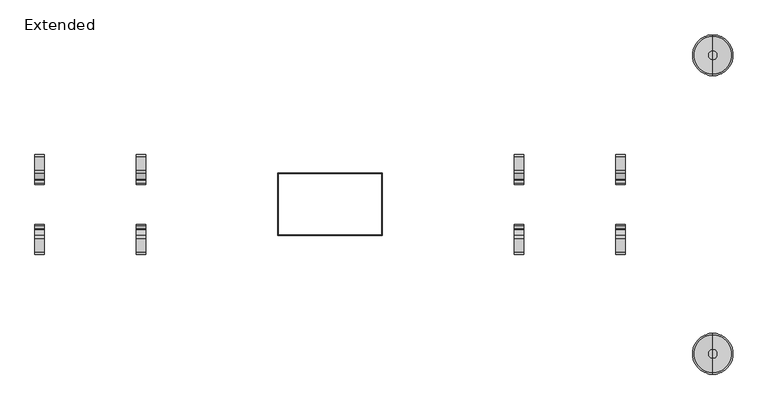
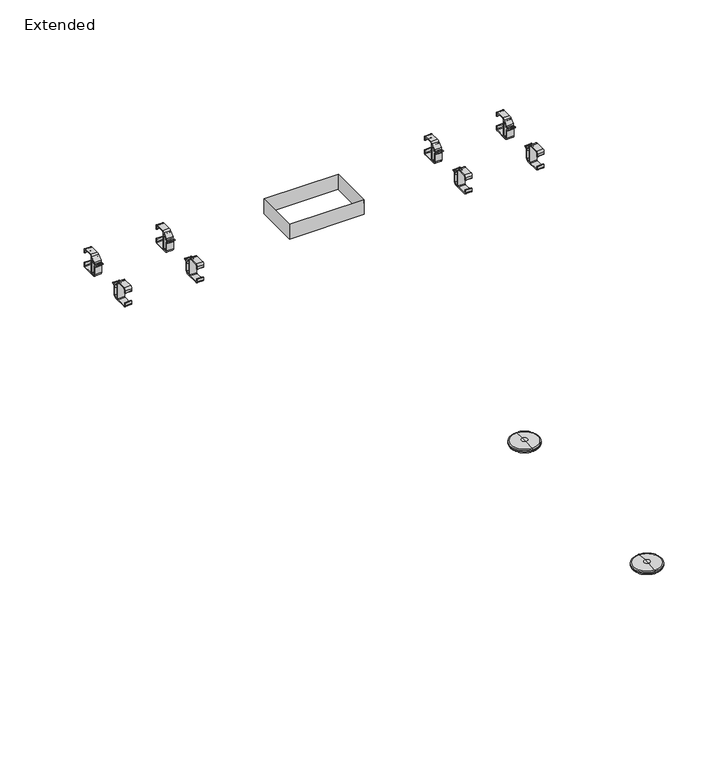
"""IFC4 building model written with IfcOpenShell, lengths in millimetres: furniture geometry, Steelcase Turnstone - Bivi - T Base : Extended."""

from ifc_helpers import new_model, si_unit, point, frame, frame_2d, origin, place, context, project, spatial, polyline, circle_curve, ellipse_curve, trimmed, segment, composite_curve, outline, extrude, faceted_brep, source, transform, mapped, element, save
from ifc_brep_helpers import plane_surface, cylinder_surface, revolved_surface, advanced_brep


def extended_abadf6af(model_context):
    return source(origin(), model_context, "Body", "SolidModel", [
        extrude(outline(composite_curve([segment(trimmed(circle_curve(frame_2d((-65.7391624, 919.9239361)), 6.2415612), [point((-59.4976013, 919.9239361))], [point((-64.5659326, 926.0542393))], True, "CARTESIAN"), True, "CONTINUOUS"), segment(trimmed(circle_curve(frame_2d((-64.3721846, 927.0666017)), 1.0307357), [point((-64.5659326, 926.0542393))], [point((-64.1869392, 928.0805545))], False, "CARTESIAN"), True, "CONTINUOUS"), segment(trimmed(circle_curve(frame_2d((-65.6771233, 919.9239361)), 8.2916266), [point((-64.1869392, 928.0805545))], [point((-57.3854967, 919.9239361))], False, "CARTESIAN"), True, "CONTINUOUS"), segment(polyline([(-57.3854967, 919.9239361), (-57.3854967, 903.1624107)]), True, "CONTINUOUS"), segment(trimmed(circle_curve(frame_2d((-53.4972048, 903.1624107)), 3.8882919), [point((-57.3854967, 903.1624107))], [point((-53.4414787, 899.2745182))], True, "CARTESIAN"), True, "CONTINUOUS"), segment(polyline([(-53.4414787, 899.2745182), (-48.5753711, 899.2745182)]), True, "CONTINUOUS"), segment(trimmed(circle_curve(frame_2d((-48.5753711, 900.358435)), 1.0839168), [point((-48.5753711, 899.2745182))], [point((-47.4914543, 900.358435))], True, "CARTESIAN"), True, "CONTINUOUS"), segment(polyline([(-47.4914543, 900.358435), (-47.4914543, 934.0135585)]), True, "CONTINUOUS"), segment(trimmed(circle_curve(frame_2d((-49.0315964, 934.0135585)), 1.5401421), [point((-47.4914543, 934.0135585))], [point((-50.0681586, 935.1526706))], True, "CARTESIAN"), True, "CONTINUOUS"), segment(polyline([(-50.0681586, 935.1526706), (-54.4475369, 931.1675508)]), True, "CONTINUOUS"), segment(trimmed(circle_curve(frame_2d((-53.8610141, 930.5230017)), 0.8714657), [point((-54.4475369, 931.1675508))], [point((-54.6447876, 930.142014))], True, "CARTESIAN"), True, "CONTINUOUS"), segment(trimmed(circle_curve(frame_2d((-56.5369304, 929.2222544)), 2.1038446), [point((-54.6447876, 930.142014))], [point((-57.8009025, 930.9040798))], False, "CARTESIAN"), True, "CONTINUOUS"), segment(polyline([(-57.8009025, 930.9040798), (-48.4315057, 939.3182067)]), True, "CONTINUOUS"), segment(trimmed(circle_curve(frame_2d((-43.0316889, 933.3053397)), 8.0816206), [point((-48.4315057, 939.3182067))], [point((-43.0316889, 941.3869603))], False, "CARTESIAN"), True, "CONTINUOUS"), segment(polyline([(-43.0316889, 941.3869603), (-21.684555, 941.3869603)]), True, "CONTINUOUS"), segment(trimmed(circle_curve(frame_2d((-22.1935929, 936.6624493)), 4.7518548), [point((-21.684555, 941.3869603))], [point((-17.4417381, 936.6624493))], False, "CARTESIAN"), True, "CONTINUOUS"), segment(polyline([(-17.4417381, 936.6624493), (-17.4417381, 931.3063472)]), True, "CONTINUOUS"), segment(trimmed(circle_curve(frame_2d((-18.5067894, 931.3063472)), 1.0650513), [point((-17.4417381, 931.3063472))], [point((-19.5718406, 931.3063472))], False, "CARTESIAN"), True, "CONTINUOUS"), segment(polyline([(-19.5718406, 931.3063472), (-19.5718406, 937.1038862)]), True, "CONTINUOUS"), segment(trimmed(circle_curve(frame_2d((-22.6679544, 937.1038862)), 3.0961138), [point((-19.5718406, 937.1038862))], [point((-22.6679544, 940.2))], True, "CARTESIAN"), True, "CONTINUOUS"), segment(polyline([(-22.6679544, 940.2), (-43.0035831, 940.2)]), True, "CONTINUOUS"), segment(trimmed(circle_curve(frame_2d((-43.0035831, 937.697389)), 2.502611), [point((-43.0035831, 940.2))], [point((-45.5061941, 937.697389))], True, "CARTESIAN"), True, "CONTINUOUS"), segment(polyline([(-45.5061941, 937.697389), (-45.5061941, 900.7613964)]), True, "CONTINUOUS"), segment(trimmed(circle_curve(frame_2d((-44.0445082, 900.7613964)), 1.4616859), [point((-45.5061941, 900.7613964))], [point((-44.0445082, 899.2997105))], True, "CARTESIAN"), True, "CONTINUOUS"), segment(polyline([(-44.0445082, 899.2997105), (-21.0231187, 899.2997105)]), True, "CONTINUOUS"), segment(trimmed(circle_curve(frame_2d((-21.0231187, 900.7509885)), 1.451278), [point((-21.0231187, 899.2997105))], [point((-19.5718406, 900.7509885))], True, "CARTESIAN"), True, "CONTINUOUS"), segment(polyline([(-19.5718406, 900.7509885), (-19.5718406, 907.0789837), (-17.4417381, 907.0789837), (-17.4417381, 901.1602118)]), True, "CONTINUOUS"), segment(trimmed(circle_curve(frame_2d((-21.439512, 901.1602118)), 3.997774), [point((-17.4417381, 901.1602118))], [point((-21.439512, 897.1624378))], False, "CARTESIAN"), True, "CONTINUOUS"), segment(polyline([(-21.439512, 897.1624378), (-53.4414787, 897.1624378)]), True, "CONTINUOUS"), segment(trimmed(circle_curve(frame_2d((-53.4414787, 903.2188231)), 6.0563853), [point((-53.4414787, 897.1624378))], [point((-59.4976013, 903.1624107))], False, "CARTESIAN"), True, "CONTINUOUS"), segment(polyline([(-59.4976013, 903.1624107), (-59.4976013, 919.9239361)]), True, "CONTINUOUS")], self_intersect=False)), frame((-644.2435707, 0.0, 0.0), z_axis=(1.0, 0.0, 0.0), x_axis=(0.0, 1.0, 0.0)), (0.0, 0.0, 1.0), 15.24),
        extrude(outline(composite_curve([segment(polyline([(-135.6005693, 919.9239361), (-135.6005693, 903.1624107)]), True, "CONTINUOUS"), segment(trimmed(circle_curve(frame_2d((-141.6566919, 903.2188231)), 6.0563853), [point((-135.6005693, 903.1624107))], [point((-141.6566919, 897.1624378))], False, "CARTESIAN"), True, "CONTINUOUS"), segment(polyline([(-141.6566919, 897.1624378), (-173.6586586, 897.1624378)]), True, "CONTINUOUS"), segment(trimmed(circle_curve(frame_2d((-173.6586586, 901.1602118)), 3.997774), [point((-173.6586586, 897.1624378))], [point((-177.6564325, 901.1602118))], False, "CARTESIAN"), True, "CONTINUOUS"), segment(polyline([(-177.6564325, 901.1602118), (-177.6564325, 907.0789837), (-175.52633, 907.0789837), (-175.52633, 900.7509885)]), True, "CONTINUOUS"), segment(trimmed(circle_curve(frame_2d((-174.0750519, 900.7509885)), 1.451278), [point((-175.52633, 900.7509885))], [point((-174.0750519, 899.2997105))], True, "CARTESIAN"), True, "CONTINUOUS"), segment(polyline([(-174.0750519, 899.2997105), (-151.0536624, 899.2997105)]), True, "CONTINUOUS"), segment(trimmed(circle_curve(frame_2d((-151.0536624, 900.7613964)), 1.4616859), [point((-151.0536624, 899.2997105))], [point((-149.5919765, 900.7613964))], True, "CARTESIAN"), True, "CONTINUOUS"), segment(polyline([(-149.5919765, 900.7613964), (-149.5919765, 937.697389)]), True, "CONTINUOUS"), segment(trimmed(circle_curve(frame_2d((-152.0945875, 937.697389)), 2.502611), [point((-149.5919765, 937.697389))], [point((-152.0945875, 940.2))], True, "CARTESIAN"), True, "CONTINUOUS"), segment(polyline([(-152.0945875, 940.2), (-172.4302162, 940.2)]), True, "CONTINUOUS"), segment(trimmed(circle_curve(frame_2d((-172.4302162, 937.1038862)), 3.0961138), [point((-172.4302162, 940.2))], [point((-175.52633, 937.1038862))], True, "CARTESIAN"), True, "CONTINUOUS"), segment(polyline([(-175.52633, 937.1038862), (-175.52633, 931.3063472)]), True, "CONTINUOUS"), segment(trimmed(circle_curve(frame_2d((-176.5913812, 931.3063472)), 1.0650513), [point((-175.52633, 931.3063472))], [point((-177.6564325, 931.3063472))], False, "CARTESIAN"), True, "CONTINUOUS"), segment(polyline([(-177.6564325, 931.3063472), (-177.6564325, 936.6624493)]), True, "CONTINUOUS"), segment(trimmed(circle_curve(frame_2d((-172.9045777, 936.6624493)), 4.7518548), [point((-177.6564325, 936.6624493))], [point((-173.4136156, 941.3869603))], False, "CARTESIAN"), True, "CONTINUOUS"), segment(polyline([(-173.4136156, 941.3869603), (-152.0664817, 941.3869603)]), True, "CONTINUOUS"), segment(trimmed(circle_curve(frame_2d((-152.0664817, 933.3053397)), 8.0816206), [point((-152.0664817, 941.3869603))], [point((-146.6666649, 939.3182067))], False, "CARTESIAN"), True, "CONTINUOUS"), segment(polyline([(-146.6666649, 939.3182067), (-137.2972681, 930.9040798)]), True, "CONTINUOUS"), segment(trimmed(circle_curve(frame_2d((-138.5612402, 929.2222544)), 2.1038446), [point((-137.2972681, 930.9040798))], [point((-140.453383, 930.142014))], False, "CARTESIAN"), True, "CONTINUOUS"), segment(trimmed(circle_curve(frame_2d((-141.2371565, 930.5230017)), 0.8714657), [point((-140.453383, 930.142014))], [point((-140.6506337, 931.1675508))], True, "CARTESIAN"), True, "CONTINUOUS"), segment(polyline([(-140.6506337, 931.1675508), (-145.030012, 935.1526706)]), True, "CONTINUOUS"), segment(trimmed(circle_curve(frame_2d((-146.0665742, 934.0135585)), 1.5401421), [point((-145.030012, 935.1526706))], [point((-147.6067163, 934.0135585))], True, "CARTESIAN"), True, "CONTINUOUS"), segment(polyline([(-147.6067163, 934.0135585), (-147.6067163, 900.358435)]), True, "CONTINUOUS"), segment(trimmed(circle_curve(frame_2d((-146.5227995, 900.358435)), 1.0839168), [point((-147.6067163, 900.358435))], [point((-146.5227995, 899.2745182))], True, "CARTESIAN"), True, "CONTINUOUS"), segment(polyline([(-146.5227995, 899.2745182), (-141.6566919, 899.2745182)]), True, "CONTINUOUS"), segment(trimmed(circle_curve(frame_2d((-141.6009658, 903.1624107)), 3.8882919), [point((-141.6566919, 899.2745182))], [point((-137.7126739, 903.1624107))], True, "CARTESIAN"), True, "CONTINUOUS"), segment(polyline([(-137.7126739, 903.1624107), (-137.7126739, 919.9239361)]), True, "CONTINUOUS"), segment(trimmed(circle_curve(frame_2d((-129.4210473, 919.9239361)), 8.2916266), [point((-137.7126739, 919.9239361))], [point((-130.9112314, 928.0805545))], False, "CARTESIAN"), True, "CONTINUOUS"), segment(trimmed(circle_curve(frame_2d((-130.725986, 927.0666017)), 1.0307357), [point((-130.9112314, 928.0805545))], [point((-130.532238, 926.0542393))], False, "CARTESIAN"), True, "CONTINUOUS"), segment(trimmed(circle_curve(frame_2d((-129.3590082, 919.9239361)), 6.2415612), [point((-130.532238, 926.0542393))], [point((-135.6005693, 919.9239361))], True, "CARTESIAN"), True, "CONTINUOUS")], self_intersect=False)), frame((-644.2435707, 0.0, 0.0), z_axis=(1.0, 0.0, 0.0), x_axis=(0.0, 1.0, 0.0)), (0.0, 0.0, 1.0), 15.24),
        extrude(outline(composite_curve([segment(trimmed(circle_curve(frame_2d((-65.7391624, 919.9239361)), 6.2415612), [point((-59.4976013, 919.9239361))], [point((-64.5659326, 926.0542393))], True, "CARTESIAN"), True, "CONTINUOUS"), segment(trimmed(circle_curve(frame_2d((-64.3721846, 927.0666017)), 1.0307357), [point((-64.5659326, 926.0542393))], [point((-64.1869392, 928.0805545))], False, "CARTESIAN"), True, "CONTINUOUS"), segment(trimmed(circle_curve(frame_2d((-65.6771233, 919.9239361)), 8.2916266), [point((-64.1869392, 928.0805545))], [point((-57.3854967, 919.9239361))], False, "CARTESIAN"), True, "CONTINUOUS"), segment(polyline([(-57.3854967, 919.9239361), (-57.3854967, 903.1624107)]), True, "CONTINUOUS"), segment(trimmed(circle_curve(frame_2d((-53.4972048, 903.1624107)), 3.8882919), [point((-57.3854967, 903.1624107))], [point((-53.4414787, 899.2745182))], True, "CARTESIAN"), True, "CONTINUOUS"), segment(polyline([(-53.4414787, 899.2745182), (-48.5753711, 899.2745182)]), True, "CONTINUOUS"), segment(trimmed(circle_curve(frame_2d((-48.5753711, 900.358435)), 1.0839168), [point((-48.5753711, 899.2745182))], [point((-47.4914543, 900.358435))], True, "CARTESIAN"), True, "CONTINUOUS"), segment(polyline([(-47.4914543, 900.358435), (-47.4914543, 934.0135585)]), True, "CONTINUOUS"), segment(trimmed(circle_curve(frame_2d((-49.0315964, 934.0135585)), 1.5401421), [point((-47.4914543, 934.0135585))], [point((-50.0681586, 935.1526706))], True, "CARTESIAN"), True, "CONTINUOUS"), segment(polyline([(-50.0681586, 935.1526706), (-54.4475369, 931.1675508)]), True, "CONTINUOUS"), segment(trimmed(circle_curve(frame_2d((-53.8610141, 930.5230017)), 0.8714657), [point((-54.4475369, 931.1675508))], [point((-54.6447876, 930.142014))], True, "CARTESIAN"), True, "CONTINUOUS"), segment(trimmed(circle_curve(frame_2d((-56.5369304, 929.2222544)), 2.1038446), [point((-54.6447876, 930.142014))], [point((-57.8009025, 930.9040798))], False, "CARTESIAN"), True, "CONTINUOUS"), segment(polyline([(-57.8009025, 930.9040798), (-48.4315057, 939.3182067)]), True, "CONTINUOUS"), segment(trimmed(circle_curve(frame_2d((-43.0316889, 933.3053397)), 8.0816206), [point((-48.4315057, 939.3182067))], [point((-43.0316889, 941.3869603))], False, "CARTESIAN"), True, "CONTINUOUS"), segment(polyline([(-43.0316889, 941.3869603), (-21.684555, 941.3869603)]), True, "CONTINUOUS"), segment(trimmed(circle_curve(frame_2d((-22.1935929, 936.6624493)), 4.7518548), [point((-21.684555, 941.3869603))], [point((-17.4417381, 936.6624493))], False, "CARTESIAN"), True, "CONTINUOUS"), segment(polyline([(-17.4417381, 936.6624493), (-17.4417381, 931.3063472)]), True, "CONTINUOUS"), segment(trimmed(circle_curve(frame_2d((-18.5067894, 931.3063472)), 1.0650513), [point((-17.4417381, 931.3063472))], [point((-19.5718406, 931.3063472))], False, "CARTESIAN"), True, "CONTINUOUS"), segment(polyline([(-19.5718406, 931.3063472), (-19.5718406, 937.1038862)]), True, "CONTINUOUS"), segment(trimmed(circle_curve(frame_2d((-22.6679544, 937.1038862)), 3.0961138), [point((-19.5718406, 937.1038862))], [point((-22.6679544, 940.2))], True, "CARTESIAN"), True, "CONTINUOUS"), segment(polyline([(-22.6679544, 940.2), (-43.0035831, 940.2)]), True, "CONTINUOUS"), segment(trimmed(circle_curve(frame_2d((-43.0035831, 937.697389)), 2.502611), [point((-43.0035831, 940.2))], [point((-45.5061941, 937.697389))], True, "CARTESIAN"), True, "CONTINUOUS"), segment(polyline([(-45.5061941, 937.697389), (-45.5061941, 900.7613964)]), True, "CONTINUOUS"), segment(trimmed(circle_curve(frame_2d((-44.0445082, 900.7613964)), 1.4616859), [point((-45.5061941, 900.7613964))], [point((-44.0445082, 899.2997105))], True, "CARTESIAN"), True, "CONTINUOUS"), segment(polyline([(-44.0445082, 899.2997105), (-21.0231187, 899.2997105)]), True, "CONTINUOUS"), segment(trimmed(circle_curve(frame_2d((-21.0231187, 900.7509885)), 1.451278), [point((-21.0231187, 899.2997105))], [point((-19.5718406, 900.7509885))], True, "CARTESIAN"), True, "CONTINUOUS"), segment(polyline([(-19.5718406, 900.7509885), (-19.5718406, 907.0789837), (-17.4417381, 907.0789837), (-17.4417381, 901.1602118)]), True, "CONTINUOUS"), segment(trimmed(circle_curve(frame_2d((-21.439512, 901.1602118)), 3.997774), [point((-17.4417381, 901.1602118))], [point((-21.439512, 897.1624378))], False, "CARTESIAN"), True, "CONTINUOUS"), segment(polyline([(-21.439512, 897.1624378), (-53.4414787, 897.1624378)]), True, "CONTINUOUS"), segment(trimmed(circle_curve(frame_2d((-53.4414787, 903.2188231)), 6.0563853), [point((-53.4414787, 897.1624378))], [point((-59.4976013, 903.1624107))], False, "CARTESIAN"), True, "CONTINUOUS"), segment(polyline([(-59.4976013, 903.1624107), (-59.4976013, 919.9239361)]), True, "CONTINUOUS")], self_intersect=False)), frame((-481.9950023, 0.0, 0.0), z_axis=(1.0, 0.0, 0.0), x_axis=(0.0, 1.0, 0.0)), (0.0, 0.0, 1.0), 15.24),
        extrude(outline(composite_curve([segment(polyline([(-135.6005693, 919.9239361), (-135.6005693, 903.1624107)]), True, "CONTINUOUS"), segment(trimmed(circle_curve(frame_2d((-141.6566919, 903.2188231)), 6.0563853), [point((-135.6005693, 903.1624107))], [point((-141.6566919, 897.1624378))], False, "CARTESIAN"), True, "CONTINUOUS"), segment(polyline([(-141.6566919, 897.1624378), (-173.6586586, 897.1624378)]), True, "CONTINUOUS"), segment(trimmed(circle_curve(frame_2d((-173.6586586, 901.1602118)), 3.997774), [point((-173.6586586, 897.1624378))], [point((-177.6564325, 901.1602118))], False, "CARTESIAN"), True, "CONTINUOUS"), segment(polyline([(-177.6564325, 901.1602118), (-177.6564325, 907.0789837), (-175.52633, 907.0789837), (-175.52633, 900.7509885)]), True, "CONTINUOUS"), segment(trimmed(circle_curve(frame_2d((-174.0750519, 900.7509885)), 1.451278), [point((-175.52633, 900.7509885))], [point((-174.0750519, 899.2997105))], True, "CARTESIAN"), True, "CONTINUOUS"), segment(polyline([(-174.0750519, 899.2997105), (-151.0536624, 899.2997105)]), True, "CONTINUOUS"), segment(trimmed(circle_curve(frame_2d((-151.0536624, 900.7613964)), 1.4616859), [point((-151.0536624, 899.2997105))], [point((-149.5919765, 900.7613964))], True, "CARTESIAN"), True, "CONTINUOUS"), segment(polyline([(-149.5919765, 900.7613964), (-149.5919765, 937.697389)]), True, "CONTINUOUS"), segment(trimmed(circle_curve(frame_2d((-152.0945875, 937.697389)), 2.502611), [point((-149.5919765, 937.697389))], [point((-152.0945875, 940.2))], True, "CARTESIAN"), True, "CONTINUOUS"), segment(polyline([(-152.0945875, 940.2), (-172.4302162, 940.2)]), True, "CONTINUOUS"), segment(trimmed(circle_curve(frame_2d((-172.4302162, 937.1038862)), 3.0961138), [point((-172.4302162, 940.2))], [point((-175.52633, 937.1038862))], True, "CARTESIAN"), True, "CONTINUOUS"), segment(polyline([(-175.52633, 937.1038862), (-175.52633, 931.3063472)]), True, "CONTINUOUS"), segment(trimmed(circle_curve(frame_2d((-176.5913812, 931.3063472)), 1.0650513), [point((-175.52633, 931.3063472))], [point((-177.6564325, 931.3063472))], False, "CARTESIAN"), True, "CONTINUOUS"), segment(polyline([(-177.6564325, 931.3063472), (-177.6564325, 936.6624493)]), True, "CONTINUOUS"), segment(trimmed(circle_curve(frame_2d((-172.9045777, 936.6624493)), 4.7518548), [point((-177.6564325, 936.6624493))], [point((-173.4136156, 941.3869603))], False, "CARTESIAN"), True, "CONTINUOUS"), segment(polyline([(-173.4136156, 941.3869603), (-152.0664817, 941.3869603)]), True, "CONTINUOUS"), segment(trimmed(circle_curve(frame_2d((-152.0664817, 933.3053397)), 8.0816206), [point((-152.0664817, 941.3869603))], [point((-146.6666649, 939.3182067))], False, "CARTESIAN"), True, "CONTINUOUS"), segment(polyline([(-146.6666649, 939.3182067), (-137.2972681, 930.9040798)]), True, "CONTINUOUS"), segment(trimmed(circle_curve(frame_2d((-138.5612402, 929.2222544)), 2.1038446), [point((-137.2972681, 930.9040798))], [point((-140.453383, 930.142014))], False, "CARTESIAN"), True, "CONTINUOUS"), segment(trimmed(circle_curve(frame_2d((-141.2371565, 930.5230017)), 0.8714657), [point((-140.453383, 930.142014))], [point((-140.6506337, 931.1675508))], True, "CARTESIAN"), True, "CONTINUOUS"), segment(polyline([(-140.6506337, 931.1675508), (-145.030012, 935.1526706)]), True, "CONTINUOUS"), segment(trimmed(circle_curve(frame_2d((-146.0665742, 934.0135585)), 1.5401421), [point((-145.030012, 935.1526706))], [point((-147.6067163, 934.0135585))], True, "CARTESIAN"), True, "CONTINUOUS"), segment(polyline([(-147.6067163, 934.0135585), (-147.6067163, 900.358435)]), True, "CONTINUOUS"), segment(trimmed(circle_curve(frame_2d((-146.5227995, 900.358435)), 1.0839168), [point((-147.6067163, 900.358435))], [point((-146.5227995, 899.2745182))], True, "CARTESIAN"), True, "CONTINUOUS"), segment(polyline([(-146.5227995, 899.2745182), (-141.6566919, 899.2745182)]), True, "CONTINUOUS"), segment(trimmed(circle_curve(frame_2d((-141.6009658, 903.1624107)), 3.8882919), [point((-141.6566919, 899.2745182))], [point((-137.7126739, 903.1624107))], True, "CARTESIAN"), True, "CONTINUOUS"), segment(polyline([(-137.7126739, 903.1624107), (-137.7126739, 919.9239361)]), True, "CONTINUOUS"), segment(trimmed(circle_curve(frame_2d((-129.4210473, 919.9239361)), 8.2916266), [point((-137.7126739, 919.9239361))], [point((-130.9112314, 928.0805545))], False, "CARTESIAN"), True, "CONTINUOUS"), segment(trimmed(circle_curve(frame_2d((-130.725986, 927.0666017)), 1.0307357), [point((-130.9112314, 928.0805545))], [point((-130.532238, 926.0542393))], False, "CARTESIAN"), True, "CONTINUOUS"), segment(trimmed(circle_curve(frame_2d((-129.3590082, 919.9239361)), 6.2415612), [point((-130.532238, 926.0542393))], [point((-135.6005693, 919.9239361))], True, "CARTESIAN"), True, "CONTINUOUS")], self_intersect=False)), frame((-481.9950023, 0.0, 0.0), z_axis=(1.0, 0.0, 0.0), x_axis=(0.0, 1.0, 0.0)), (0.0, 0.0, 1.0), 15.24),
        extrude(outline(composite_curve([segment(trimmed(circle_curve(frame_2d((-65.7391624, 919.9239361)), 6.2415612), [point((-59.4976013, 919.9239361))], [point((-64.5659326, 926.0542393))], True, "CARTESIAN"), True, "CONTINUOUS"), segment(trimmed(circle_curve(frame_2d((-64.3721846, 927.0666017)), 1.0307357), [point((-64.5659326, 926.0542393))], [point((-64.1869392, 928.0805545))], False, "CARTESIAN"), True, "CONTINUOUS"), segment(trimmed(circle_curve(frame_2d((-65.6771233, 919.9239361)), 8.2916266), [point((-64.1869392, 928.0805545))], [point((-57.3854967, 919.9239361))], False, "CARTESIAN"), True, "CONTINUOUS"), segment(polyline([(-57.3854967, 919.9239361), (-57.3854967, 903.1624107)]), True, "CONTINUOUS"), segment(trimmed(circle_curve(frame_2d((-53.4972048, 903.1624107)), 3.8882919), [point((-57.3854967, 903.1624107))], [point((-53.4414787, 899.2745182))], True, "CARTESIAN"), True, "CONTINUOUS"), segment(polyline([(-53.4414787, 899.2745182), (-48.5753711, 899.2745182)]), True, "CONTINUOUS"), segment(trimmed(circle_curve(frame_2d((-48.5753711, 900.358435)), 1.0839168), [point((-48.5753711, 899.2745182))], [point((-47.4914543, 900.358435))], True, "CARTESIAN"), True, "CONTINUOUS"), segment(polyline([(-47.4914543, 900.358435), (-47.4914543, 934.0135585)]), True, "CONTINUOUS"), segment(trimmed(circle_curve(frame_2d((-49.0315964, 934.0135585)), 1.5401421), [point((-47.4914543, 934.0135585))], [point((-50.0681586, 935.1526706))], True, "CARTESIAN"), True, "CONTINUOUS"), segment(polyline([(-50.0681586, 935.1526706), (-54.4475369, 931.1675508)]), True, "CONTINUOUS"), segment(trimmed(circle_curve(frame_2d((-53.8610141, 930.5230017)), 0.8714657), [point((-54.4475369, 931.1675508))], [point((-54.6447876, 930.142014))], True, "CARTESIAN"), True, "CONTINUOUS"), segment(trimmed(circle_curve(frame_2d((-56.5369304, 929.2222544)), 2.1038446), [point((-54.6447876, 930.142014))], [point((-57.8009025, 930.9040798))], False, "CARTESIAN"), True, "CONTINUOUS"), segment(polyline([(-57.8009025, 930.9040798), (-48.4315057, 939.3182067)]), True, "CONTINUOUS"), segment(trimmed(circle_curve(frame_2d((-43.0316889, 933.3053397)), 8.0816206), [point((-48.4315057, 939.3182067))], [point((-43.0316889, 941.3869603))], False, "CARTESIAN"), True, "CONTINUOUS"), segment(polyline([(-43.0316889, 941.3869603), (-21.684555, 941.3869603)]), True, "CONTINUOUS"), segment(trimmed(circle_curve(frame_2d((-22.1935929, 936.6624493)), 4.7518548), [point((-21.684555, 941.3869603))], [point((-17.4417381, 936.6624493))], False, "CARTESIAN"), True, "CONTINUOUS"), segment(polyline([(-17.4417381, 936.6624493), (-17.4417381, 931.3063472)]), True, "CONTINUOUS"), segment(trimmed(circle_curve(frame_2d((-18.5067894, 931.3063472)), 1.0650513), [point((-17.4417381, 931.3063472))], [point((-19.5718406, 931.3063472))], False, "CARTESIAN"), True, "CONTINUOUS"), segment(polyline([(-19.5718406, 931.3063472), (-19.5718406, 937.1038862)]), True, "CONTINUOUS"), segment(trimmed(circle_curve(frame_2d((-22.6679544, 937.1038862)), 3.0961138), [point((-19.5718406, 937.1038862))], [point((-22.6679544, 940.2))], True, "CARTESIAN"), True, "CONTINUOUS"), segment(polyline([(-22.6679544, 940.2), (-43.0035831, 940.2)]), True, "CONTINUOUS"), segment(trimmed(circle_curve(frame_2d((-43.0035831, 937.697389)), 2.502611), [point((-43.0035831, 940.2))], [point((-45.5061941, 937.697389))], True, "CARTESIAN"), True, "CONTINUOUS"), segment(polyline([(-45.5061941, 937.697389), (-45.5061941, 900.7613964)]), True, "CONTINUOUS"), segment(trimmed(circle_curve(frame_2d((-44.0445082, 900.7613964)), 1.4616859), [point((-45.5061941, 900.7613964))], [point((-44.0445082, 899.2997105))], True, "CARTESIAN"), True, "CONTINUOUS"), segment(polyline([(-44.0445082, 899.2997105), (-21.0231187, 899.2997105)]), True, "CONTINUOUS"), segment(trimmed(circle_curve(frame_2d((-21.0231187, 900.7509885)), 1.451278), [point((-21.0231187, 899.2997105))], [point((-19.5718406, 900.7509885))], True, "CARTESIAN"), True, "CONTINUOUS"), segment(polyline([(-19.5718406, 900.7509885), (-19.5718406, 907.0789837), (-17.4417381, 907.0789837), (-17.4417381, 901.1602118)]), True, "CONTINUOUS"), segment(trimmed(circle_curve(frame_2d((-21.439512, 901.1602118)), 3.997774), [point((-17.4417381, 901.1602118))], [point((-21.439512, 897.1624378))], False, "CARTESIAN"), True, "CONTINUOUS"), segment(polyline([(-21.439512, 897.1624378), (-53.4414787, 897.1624378)]), True, "CONTINUOUS"), segment(trimmed(circle_curve(frame_2d((-53.4414787, 903.2188231)), 6.0563853), [point((-53.4414787, 897.1624378))], [point((-59.4976013, 903.1624107))], False, "CARTESIAN"), True, "CONTINUOUS"), segment(polyline([(-59.4976013, 903.1624107), (-59.4976013, 919.9239361)]), True, "CONTINUOUS")], self_intersect=False)), frame((284.5631648, 0.0, 0.0), z_axis=(1.0, 0.0, 0.0), x_axis=(0.0, 1.0, 0.0)), (0.0, 0.0, 1.0), 15.24),
        extrude(outline(composite_curve([segment(polyline([(-135.6005693, 919.9239361), (-135.6005693, 903.1624107)]), True, "CONTINUOUS"), segment(trimmed(circle_curve(frame_2d((-141.6566919, 903.2188231)), 6.0563853), [point((-135.6005693, 903.1624107))], [point((-141.6566919, 897.1624378))], False, "CARTESIAN"), True, "CONTINUOUS"), segment(polyline([(-141.6566919, 897.1624378), (-173.6586586, 897.1624378)]), True, "CONTINUOUS"), segment(trimmed(circle_curve(frame_2d((-173.6586586, 901.1602118)), 3.997774), [point((-173.6586586, 897.1624378))], [point((-177.6564325, 901.1602118))], False, "CARTESIAN"), True, "CONTINUOUS"), segment(polyline([(-177.6564325, 901.1602118), (-177.6564325, 907.0789837), (-175.52633, 907.0789837), (-175.52633, 900.7509885)]), True, "CONTINUOUS"), segment(trimmed(circle_curve(frame_2d((-174.0750519, 900.7509885)), 1.451278), [point((-175.52633, 900.7509885))], [point((-174.0750519, 899.2997105))], True, "CARTESIAN"), True, "CONTINUOUS"), segment(polyline([(-174.0750519, 899.2997105), (-151.0536624, 899.2997105)]), True, "CONTINUOUS"), segment(trimmed(circle_curve(frame_2d((-151.0536624, 900.7613964)), 1.4616859), [point((-151.0536624, 899.2997105))], [point((-149.5919765, 900.7613964))], True, "CARTESIAN"), True, "CONTINUOUS"), segment(polyline([(-149.5919765, 900.7613964), (-149.5919765, 937.697389)]), True, "CONTINUOUS"), segment(trimmed(circle_curve(frame_2d((-152.0945875, 937.697389)), 2.502611), [point((-149.5919765, 937.697389))], [point((-152.0945875, 940.2))], True, "CARTESIAN"), True, "CONTINUOUS"), segment(polyline([(-152.0945875, 940.2), (-172.4302162, 940.2)]), True, "CONTINUOUS"), segment(trimmed(circle_curve(frame_2d((-172.4302162, 937.1038862)), 3.0961138), [point((-172.4302162, 940.2))], [point((-175.52633, 937.1038862))], True, "CARTESIAN"), True, "CONTINUOUS"), segment(polyline([(-175.52633, 937.1038862), (-175.52633, 931.3063472)]), True, "CONTINUOUS"), segment(trimmed(circle_curve(frame_2d((-176.5913812, 931.3063472)), 1.0650513), [point((-175.52633, 931.3063472))], [point((-177.6564325, 931.3063472))], False, "CARTESIAN"), True, "CONTINUOUS"), segment(polyline([(-177.6564325, 931.3063472), (-177.6564325, 936.6624493)]), True, "CONTINUOUS"), segment(trimmed(circle_curve(frame_2d((-172.9045777, 936.6624493)), 4.7518548), [point((-177.6564325, 936.6624493))], [point((-173.4136156, 941.3869603))], False, "CARTESIAN"), True, "CONTINUOUS"), segment(polyline([(-173.4136156, 941.3869603), (-152.0664817, 941.3869603)]), True, "CONTINUOUS"), segment(trimmed(circle_curve(frame_2d((-152.0664817, 933.3053397)), 8.0816206), [point((-152.0664817, 941.3869603))], [point((-146.6666649, 939.3182067))], False, "CARTESIAN"), True, "CONTINUOUS"), segment(polyline([(-146.6666649, 939.3182067), (-137.2972681, 930.9040798)]), True, "CONTINUOUS"), segment(trimmed(circle_curve(frame_2d((-138.5612402, 929.2222544)), 2.1038446), [point((-137.2972681, 930.9040798))], [point((-140.453383, 930.142014))], False, "CARTESIAN"), True, "CONTINUOUS"), segment(trimmed(circle_curve(frame_2d((-141.2371565, 930.5230017)), 0.8714657), [point((-140.453383, 930.142014))], [point((-140.6506337, 931.1675508))], True, "CARTESIAN"), True, "CONTINUOUS"), segment(polyline([(-140.6506337, 931.1675508), (-145.030012, 935.1526706)]), True, "CONTINUOUS"), segment(trimmed(circle_curve(frame_2d((-146.0665742, 934.0135585)), 1.5401421), [point((-145.030012, 935.1526706))], [point((-147.6067163, 934.0135585))], True, "CARTESIAN"), True, "CONTINUOUS"), segment(polyline([(-147.6067163, 934.0135585), (-147.6067163, 900.358435)]), True, "CONTINUOUS"), segment(trimmed(circle_curve(frame_2d((-146.5227995, 900.358435)), 1.0839168), [point((-147.6067163, 900.358435))], [point((-146.5227995, 899.2745182))], True, "CARTESIAN"), True, "CONTINUOUS"), segment(polyline([(-146.5227995, 899.2745182), (-141.6566919, 899.2745182)]), True, "CONTINUOUS"), segment(trimmed(circle_curve(frame_2d((-141.6009658, 903.1624107)), 3.8882919), [point((-141.6566919, 899.2745182))], [point((-137.7126739, 903.1624107))], True, "CARTESIAN"), True, "CONTINUOUS"), segment(polyline([(-137.7126739, 903.1624107), (-137.7126739, 919.9239361)]), True, "CONTINUOUS"), segment(trimmed(circle_curve(frame_2d((-129.4210473, 919.9239361)), 8.2916266), [point((-137.7126739, 919.9239361))], [point((-130.9112314, 928.0805545))], False, "CARTESIAN"), True, "CONTINUOUS"), segment(trimmed(circle_curve(frame_2d((-130.725986, 927.0666017)), 1.0307357), [point((-130.9112314, 928.0805545))], [point((-130.532238, 926.0542393))], False, "CARTESIAN"), True, "CONTINUOUS"), segment(trimmed(circle_curve(frame_2d((-129.3590082, 919.9239361)), 6.2415612), [point((-130.532238, 926.0542393))], [point((-135.6005693, 919.9239361))], True, "CARTESIAN"), True, "CONTINUOUS")], self_intersect=False)), frame((284.5631648, 0.0, 0.0), z_axis=(1.0, 0.0, 0.0), x_axis=(0.0, 1.0, 0.0)), (0.0, 0.0, 1.0), 15.24),
        extrude(outline(composite_curve([segment(trimmed(circle_curve(frame_2d((-65.7391624, 919.9239361)), 6.2415612), [point((-59.4976013, 919.9239361))], [point((-64.5659326, 926.0542393))], True, "CARTESIAN"), True, "CONTINUOUS"), segment(trimmed(circle_curve(frame_2d((-64.3721846, 927.0666017)), 1.0307357), [point((-64.5659326, 926.0542393))], [point((-64.1869392, 928.0805545))], False, "CARTESIAN"), True, "CONTINUOUS"), segment(trimmed(circle_curve(frame_2d((-65.6771233, 919.9239361)), 8.2916266), [point((-64.1869392, 928.0805545))], [point((-57.3854967, 919.9239361))], False, "CARTESIAN"), True, "CONTINUOUS"), segment(polyline([(-57.3854967, 919.9239361), (-57.3854967, 903.1624107)]), True, "CONTINUOUS"), segment(trimmed(circle_curve(frame_2d((-53.4972048, 903.1624107)), 3.8882919), [point((-57.3854967, 903.1624107))], [point((-53.4414787, 899.2745182))], True, "CARTESIAN"), True, "CONTINUOUS"), segment(polyline([(-53.4414787, 899.2745182), (-48.5753711, 899.2745182)]), True, "CONTINUOUS"), segment(trimmed(circle_curve(frame_2d((-48.5753711, 900.358435)), 1.0839168), [point((-48.5753711, 899.2745182))], [point((-47.4914543, 900.358435))], True, "CARTESIAN"), True, "CONTINUOUS"), segment(polyline([(-47.4914543, 900.358435), (-47.4914543, 934.0135585)]), True, "CONTINUOUS"), segment(trimmed(circle_curve(frame_2d((-49.0315964, 934.0135585)), 1.5401421), [point((-47.4914543, 934.0135585))], [point((-50.0681586, 935.1526706))], True, "CARTESIAN"), True, "CONTINUOUS"), segment(polyline([(-50.0681586, 935.1526706), (-54.4475369, 931.1675508)]), True, "CONTINUOUS"), segment(trimmed(circle_curve(frame_2d((-53.8610141, 930.5230017)), 0.8714657), [point((-54.4475369, 931.1675508))], [point((-54.6447876, 930.142014))], True, "CARTESIAN"), True, "CONTINUOUS"), segment(trimmed(circle_curve(frame_2d((-56.5369304, 929.2222544)), 2.1038446), [point((-54.6447876, 930.142014))], [point((-57.8009025, 930.9040798))], False, "CARTESIAN"), True, "CONTINUOUS"), segment(polyline([(-57.8009025, 930.9040798), (-48.4315057, 939.3182067)]), True, "CONTINUOUS"), segment(trimmed(circle_curve(frame_2d((-43.0316889, 933.3053397)), 8.0816206), [point((-48.4315057, 939.3182067))], [point((-43.0316889, 941.3869603))], False, "CARTESIAN"), True, "CONTINUOUS"), segment(polyline([(-43.0316889, 941.3869603), (-21.684555, 941.3869603)]), True, "CONTINUOUS"), segment(trimmed(circle_curve(frame_2d((-22.1935929, 936.6624493)), 4.7518548), [point((-21.684555, 941.3869603))], [point((-17.4417381, 936.6624493))], False, "CARTESIAN"), True, "CONTINUOUS"), segment(polyline([(-17.4417381, 936.6624493), (-17.4417381, 931.3063472)]), True, "CONTINUOUS"), segment(trimmed(circle_curve(frame_2d((-18.5067894, 931.3063472)), 1.0650513), [point((-17.4417381, 931.3063472))], [point((-19.5718406, 931.3063472))], False, "CARTESIAN"), True, "CONTINUOUS"), segment(polyline([(-19.5718406, 931.3063472), (-19.5718406, 937.1038862)]), True, "CONTINUOUS"), segment(trimmed(circle_curve(frame_2d((-22.6679544, 937.1038862)), 3.0961138), [point((-19.5718406, 937.1038862))], [point((-22.6679544, 940.2))], True, "CARTESIAN"), True, "CONTINUOUS"), segment(polyline([(-22.6679544, 940.2), (-43.0035831, 940.2)]), True, "CONTINUOUS"), segment(trimmed(circle_curve(frame_2d((-43.0035831, 937.697389)), 2.502611), [point((-43.0035831, 940.2))], [point((-45.5061941, 937.697389))], True, "CARTESIAN"), True, "CONTINUOUS"), segment(polyline([(-45.5061941, 937.697389), (-45.5061941, 900.7613964)]), True, "CONTINUOUS"), segment(trimmed(circle_curve(frame_2d((-44.0445082, 900.7613964)), 1.4616859), [point((-45.5061941, 900.7613964))], [point((-44.0445082, 899.2997105))], True, "CARTESIAN"), True, "CONTINUOUS"), segment(polyline([(-44.0445082, 899.2997105), (-21.0231187, 899.2997105)]), True, "CONTINUOUS"), segment(trimmed(circle_curve(frame_2d((-21.0231187, 900.7509885)), 1.451278), [point((-21.0231187, 899.2997105))], [point((-19.5718406, 900.7509885))], True, "CARTESIAN"), True, "CONTINUOUS"), segment(polyline([(-19.5718406, 900.7509885), (-19.5718406, 907.0789837), (-17.4417381, 907.0789837), (-17.4417381, 901.1602118)]), True, "CONTINUOUS"), segment(trimmed(circle_curve(frame_2d((-21.439512, 901.1602118)), 3.997774), [point((-17.4417381, 901.1602118))], [point((-21.439512, 897.1624378))], False, "CARTESIAN"), True, "CONTINUOUS"), segment(polyline([(-21.439512, 897.1624378), (-53.4414787, 897.1624378)]), True, "CONTINUOUS"), segment(trimmed(circle_curve(frame_2d((-53.4414787, 903.2188231)), 6.0563853), [point((-53.4414787, 897.1624378))], [point((-59.4976013, 903.1624107))], False, "CARTESIAN"), True, "CONTINUOUS"), segment(polyline([(-59.4976013, 903.1624107), (-59.4976013, 919.9239361)]), True, "CONTINUOUS")], self_intersect=False)), frame((122.3145965, 0.0, 0.0), z_axis=(1.0, 0.0, 0.0), x_axis=(0.0, 1.0, 0.0)), (0.0, 0.0, 1.0), 15.24),
        extrude(outline(composite_curve([segment(polyline([(-135.6005693, 919.9239361), (-135.6005693, 903.1624107)]), True, "CONTINUOUS"), segment(trimmed(circle_curve(frame_2d((-141.6566919, 903.2188231)), 6.0563853), [point((-135.6005693, 903.1624107))], [point((-141.6566919, 897.1624378))], False, "CARTESIAN"), True, "CONTINUOUS"), segment(polyline([(-141.6566919, 897.1624378), (-173.6586586, 897.1624378)]), True, "CONTINUOUS"), segment(trimmed(circle_curve(frame_2d((-173.6586586, 901.1602118)), 3.997774), [point((-173.6586586, 897.1624378))], [point((-177.6564325, 901.1602118))], False, "CARTESIAN"), True, "CONTINUOUS"), segment(polyline([(-177.6564325, 901.1602118), (-177.6564325, 907.0789837), (-175.52633, 907.0789837), (-175.52633, 900.7509885)]), True, "CONTINUOUS"), segment(trimmed(circle_curve(frame_2d((-174.0750519, 900.7509885)), 1.451278), [point((-175.52633, 900.7509885))], [point((-174.0750519, 899.2997105))], True, "CARTESIAN"), True, "CONTINUOUS"), segment(polyline([(-174.0750519, 899.2997105), (-151.0536624, 899.2997105)]), True, "CONTINUOUS"), segment(trimmed(circle_curve(frame_2d((-151.0536624, 900.7613964)), 1.4616859), [point((-151.0536624, 899.2997105))], [point((-149.5919765, 900.7613964))], True, "CARTESIAN"), True, "CONTINUOUS"), segment(polyline([(-149.5919765, 900.7613964), (-149.5919765, 937.697389)]), True, "CONTINUOUS"), segment(trimmed(circle_curve(frame_2d((-152.0945875, 937.697389)), 2.502611), [point((-149.5919765, 937.697389))], [point((-152.0945875, 940.2))], True, "CARTESIAN"), True, "CONTINUOUS"), segment(polyline([(-152.0945875, 940.2), (-172.4302162, 940.2)]), True, "CONTINUOUS"), segment(trimmed(circle_curve(frame_2d((-172.4302162, 937.1038862)), 3.0961138), [point((-172.4302162, 940.2))], [point((-175.52633, 937.1038862))], True, "CARTESIAN"), True, "CONTINUOUS"), segment(polyline([(-175.52633, 937.1038862), (-175.52633, 931.3063472)]), True, "CONTINUOUS"), segment(trimmed(circle_curve(frame_2d((-176.5913812, 931.3063472)), 1.0650513), [point((-175.52633, 931.3063472))], [point((-177.6564325, 931.3063472))], False, "CARTESIAN"), True, "CONTINUOUS"), segment(polyline([(-177.6564325, 931.3063472), (-177.6564325, 936.6624493)]), True, "CONTINUOUS"), segment(trimmed(circle_curve(frame_2d((-172.9045777, 936.6624493)), 4.7518548), [point((-177.6564325, 936.6624493))], [point((-173.4136156, 941.3869603))], False, "CARTESIAN"), True, "CONTINUOUS"), segment(polyline([(-173.4136156, 941.3869603), (-152.0664817, 941.3869603)]), True, "CONTINUOUS"), segment(trimmed(circle_curve(frame_2d((-152.0664817, 933.3053397)), 8.0816206), [point((-152.0664817, 941.3869603))], [point((-146.6666649, 939.3182067))], False, "CARTESIAN"), True, "CONTINUOUS"), segment(polyline([(-146.6666649, 939.3182067), (-137.2972681, 930.9040798)]), True, "CONTINUOUS"), segment(trimmed(circle_curve(frame_2d((-138.5612402, 929.2222544)), 2.1038446), [point((-137.2972681, 930.9040798))], [point((-140.453383, 930.142014))], False, "CARTESIAN"), True, "CONTINUOUS"), segment(trimmed(circle_curve(frame_2d((-141.2371565, 930.5230017)), 0.8714657), [point((-140.453383, 930.142014))], [point((-140.6506337, 931.1675508))], True, "CARTESIAN"), True, "CONTINUOUS"), segment(polyline([(-140.6506337, 931.1675508), (-145.030012, 935.1526706)]), True, "CONTINUOUS"), segment(trimmed(circle_curve(frame_2d((-146.0665742, 934.0135585)), 1.5401421), [point((-145.030012, 935.1526706))], [point((-147.6067163, 934.0135585))], True, "CARTESIAN"), True, "CONTINUOUS"), segment(polyline([(-147.6067163, 934.0135585), (-147.6067163, 900.358435)]), True, "CONTINUOUS"), segment(trimmed(circle_curve(frame_2d((-146.5227995, 900.358435)), 1.0839168), [point((-147.6067163, 900.358435))], [point((-146.5227995, 899.2745182))], True, "CARTESIAN"), True, "CONTINUOUS"), segment(polyline([(-146.5227995, 899.2745182), (-141.6566919, 899.2745182)]), True, "CONTINUOUS"), segment(trimmed(circle_curve(frame_2d((-141.6009658, 903.1624107)), 3.8882919), [point((-141.6566919, 899.2745182))], [point((-137.7126739, 903.1624107))], True, "CARTESIAN"), True, "CONTINUOUS"), segment(polyline([(-137.7126739, 903.1624107), (-137.7126739, 919.9239361)]), True, "CONTINUOUS"), segment(trimmed(circle_curve(frame_2d((-129.4210473, 919.9239361)), 8.2916266), [point((-137.7126739, 919.9239361))], [point((-130.9112314, 928.0805545))], False, "CARTESIAN"), True, "CONTINUOUS"), segment(trimmed(circle_curve(frame_2d((-130.725986, 927.0666017)), 1.0307357), [point((-130.9112314, 928.0805545))], [point((-130.532238, 926.0542393))], False, "CARTESIAN"), True, "CONTINUOUS"), segment(trimmed(circle_curve(frame_2d((-129.3590082, 919.9239361)), 6.2415612), [point((-130.532238, 926.0542393))], [point((-135.6005693, 919.9239361))], True, "CARTESIAN"), True, "CONTINUOUS")], self_intersect=False)), frame((122.3145965, 0.0, 0.0), z_axis=(1.0, 0.0, 0.0), x_axis=(0.0, 1.0, 0.0)), (0.0, 0.0, 1.0), 15.4940155),
        faceted_brep([(-88.3740127, -47.4884042, 905.0695037), (-88.3740127, -147.117788, 905.0695037), (-256.0663932, -147.117788, 905.0695037), (-256.0663932, -47.4884042, 905.0695037), (-89.78427, -48.2596827, 905.0695037), (-254.6561358, -48.2596827, 905.0695037), (-254.6561358, -146.2847142, 905.0695037), (-89.78427, -146.2847142, 905.0695037), (-256.0663932, -47.4884042, 940.2), (-88.3740127, -47.4884042, 940.2), (-256.0663932, -147.117788, 940.2), (-88.3740127, -147.117788, 940.2)], [[[0, 1, 2, 3], [4, 5, 6, 7]], [[0, 3, 8, 9]], [[3, 2, 10, 8]], [[2, 1, 11, 10]], [[1, 0, 9, 11]], [[4, 9, 8, 5]], [[5, 8, 10, 6]], [[6, 10, 11, 7]], [[9, 4, 7, 11]]]),
        advanced_brep(
        [(439.9197971, -336.587494, 0.0), (439.9197971, -306.1296546, 0.0), (439.9197971, -367.0453334, 0.0), (439.9197971, -304.0954516, 2.034203), (439.9197971, -369.0795363, 2.034203), (439.9197971, -304.0954516, 5.0424709), (439.9197971, -369.0795363, 5.0424709), (439.9197971, -306.1147418, 7.0617612), (439.9197971, -367.0602461, 7.0617612), (439.9197971, -329.0377365, 9.288914), (439.9197971, -344.1372514, 9.288914), (439.9197971, -336.587494, 9.288914)],
        [
            (0, 1),
            (1, 2, circle_curve(frame((439.9197971, -336.587494, 0.0), z_axis=(0.0, 0.0, -1.0), x_axis=(0.0, 1.0, 0.0)), 30.4578394)),
            (2, 0),
            (2, 1, circle_curve(frame((439.9197971, -336.587494, 0.0), z_axis=(0.0, 0.0, -1.0), x_axis=(0.0, 1.0, 0.0)), 30.4578394)),
            (1, 3, circle_curve(frame((439.9197971, -306.1296546, 2.034203), z_axis=(1.0, 0.0, 0.0), x_axis=(0.0, 1.0, 0.0)), 2.034203)),
            (3, 4, circle_curve(frame((439.9197971, -336.587494, 2.034203), z_axis=(0.0, 0.0, -1.0), x_axis=(0.0, 1.0, 0.0)), 32.4920424)),
            (4, 2, circle_curve(frame((439.9197971, -367.0453334, 2.034203), z_axis=(1.0, 0.0, 0.0), x_axis=(0.0, -1.0, 0.0)), 2.034203)),
            (4, 3, circle_curve(frame((439.9197971, -336.587494, 2.034203), z_axis=(0.0, 0.0, -1.0), x_axis=(0.0, 1.0, 0.0)), 32.4920424)),
            (3, 5),
            (5, 6, circle_curve(frame((439.9197971, -336.587494, 5.0424709), z_axis=(0.0, 0.0, -1.0), x_axis=(0.0, 1.0, 0.0)), 32.4920424)),
            (6, 4),
            (6, 5, circle_curve(frame((439.9197971, -336.587494, 5.0424709), z_axis=(0.0, 0.0, -1.0), x_axis=(0.0, 1.0, 0.0)), 32.4920424)),
            (5, 7, circle_curve(frame((439.9197971, -306.1147418, 5.0424709), z_axis=(1.0, 0.0, 0.0), x_axis=(0.0, 1.0, 0.0)), 2.0192902)),
            (7, 8, circle_curve(frame((439.9197971, -336.587494, 7.0617612), z_axis=(0.0, 0.0, -1.0), x_axis=(0.0, 1.0, 0.0)), 30.4727521)),
            (8, 6, circle_curve(frame((439.9197971, -367.0602461, 5.0424709), z_axis=(1.0, 0.0, 0.0), x_axis=(0.0, -1.0, 0.0)), 2.0192902)),
            (8, 7, circle_curve(frame((439.9197971, -336.587494, 7.0617612), z_axis=(0.0, 0.0, -1.0), x_axis=(0.0, 1.0, 0.0)), 30.4727521)),
            (7, 9),
            (9, 10, circle_curve(frame((439.9197971, -336.587494, 9.288914), z_axis=(0.0, 0.0, -1.0), x_axis=(0.0, 1.0, 0.0)), 7.5497574)),
            (10, 8),
            (10, 9, circle_curve(frame((439.9197971, -336.587494, 9.288914), z_axis=(0.0, 0.0, -1.0), x_axis=(0.0, 1.0, 0.0)), 7.5497574)),
            (9, 11),
            (11, 10),
        ],
        [
            plane_surface(frame((439.9197971, -336.587494, 0.0), z_axis=(0.0, 0.0, -1.0), x_axis=(0.0, 1.0, 0.0))),
            revolved_surface(trimmed(ellipse_curve(frame((439.9197971, -306.1296546, 2.034203), z_axis=(-1.0, 0.0, 0.0), x_axis=(0.0, 1.0, 0.0)), 2.034203, 2.034203), [point((439.9197971, -304.0954516, 2.034203))], [point((439.9197971, -306.1296546, 0.0))], True, "CARTESIAN"), (439.9197971, -336.587494, 13.4607192), (0.0, 0.0, -1.0)),
            cylinder_surface(frame((439.9197971, -336.587494, 13.4607192), z_axis=(0.0, 0.0, -1.0), x_axis=(0.0, 1.0, 0.0)), 32.4920424),
            revolved_surface(trimmed(ellipse_curve(frame((439.9197971, -306.1147418, 5.0424709), z_axis=(-1.0, 0.0, 0.0), x_axis=(0.0, 1.0, 0.0)), 2.0192902, 2.0192902), [point((439.9197971, -306.1147418, 7.0617612))], [point((439.9197971, -304.0954516, 5.0424709))], True, "CARTESIAN"), (439.9197971, -336.587494, 13.4607192), (0.0, 0.0, -1.0)),
            revolved_surface(polyline([(439.9197971, -329.0377365, 9.288914), (439.9197971, -306.1147418, 7.0617612)]), (439.9197971, -336.587494, 13.4607192), (0.0, 0.0, -1.0)),
            plane_surface(frame((439.9197971, -336.587494, 9.288914), z_axis=(0.0, 0.0, 1.0), x_axis=(0.0, 1.0, 0.0))),
        ],
        [
            (0, [[1, 2, 3]]),
            (0, [[-3, 4, -1]]),
            (1, [[-2, 5, 6, 7]]),
            (1, [[-4, -7, 8, -5]]),
            (2, [[-6, 9, 10, 11]]),
            (2, [[-8, -11, 12, -9]]),
            (3, [[-10, 13, 14, 15]]),
            (3, [[-12, -15, 16, -13]]),
            (4, [[-14, 17, 18, 19]]),
            (4, [[-16, -19, 20, -17]]),
            (5, [[-18, 21, 22]]),
            (5, [[-20, -22, -21]]),
        ],
    ),
        advanced_brep(
        [(439.9197971, 171.9471628, 0.0), (439.9197971, 111.031484, 0.0), (439.9197971, 141.4893234, 0.0), (439.9197971, 173.9813657, 2.034203), (439.9197971, 108.997281, 2.034203), (439.9197971, 173.9813657, 5.0424709), (439.9197971, 108.997281, 5.0424709), (439.9197971, 171.9620755, 7.0617612), (439.9197971, 111.0165712, 7.0617612), (439.9197971, 149.0390808, 9.288914), (439.9197971, 133.9395659, 9.288914), (439.9197971, 141.4893234, 9.288914)],
        [
            (0, 1, circle_curve(frame((439.9197971, 141.4893234, 0.0), z_axis=(0.0, 0.0, -1.0), x_axis=(0.0, -1.0, 0.0)), 30.4578394)),
            (1, 2),
            (2, 0),
            (1, 0, circle_curve(frame((439.9197971, 141.4893234, 0.0), z_axis=(0.0, 0.0, -1.0), x_axis=(0.0, -1.0, 0.0)), 30.4578394)),
            (3, 4, circle_curve(frame((439.9197971, 141.4893234, 2.034203), z_axis=(0.0, 0.0, -1.0), x_axis=(0.0, -1.0, 0.0)), 32.4920424)),
            (4, 1, circle_curve(frame((439.9197971, 111.031484, 2.034203), z_axis=(1.0, 0.0, 0.0), x_axis=(0.0, 1.0, 0.0)), 2.034203)),
            (0, 3, circle_curve(frame((439.9197971, 171.9471628, 2.034203), z_axis=(1.0, 0.0, 0.0), x_axis=(0.0, -1.0, 0.0)), 2.034203)),
            (4, 3, circle_curve(frame((439.9197971, 141.4893234, 2.034203), z_axis=(0.0, 0.0, -1.0), x_axis=(0.0, -1.0, 0.0)), 32.4920424)),
            (5, 6, circle_curve(frame((439.9197971, 141.4893234, 5.0424709), z_axis=(0.0, 0.0, -1.0), x_axis=(0.0, -1.0, 0.0)), 32.4920424)),
            (6, 4),
            (3, 5),
            (6, 5, circle_curve(frame((439.9197971, 141.4893234, 5.0424709), z_axis=(0.0, 0.0, -1.0), x_axis=(0.0, -1.0, 0.0)), 32.4920424)),
            (7, 8, circle_curve(frame((439.9197971, 141.4893234, 7.0617612), z_axis=(0.0, 0.0, -1.0), x_axis=(0.0, -1.0, 0.0)), 30.4727521)),
            (8, 6, circle_curve(frame((439.9197971, 111.0165712, 5.0424709), z_axis=(1.0, 0.0, 0.0), x_axis=(0.0, 1.0, 0.0)), 2.0192902)),
            (5, 7, circle_curve(frame((439.9197971, 171.9620755, 5.0424709), z_axis=(1.0, 0.0, 0.0), x_axis=(0.0, -1.0, 0.0)), 2.0192902)),
            (8, 7, circle_curve(frame((439.9197971, 141.4893234, 7.0617612), z_axis=(0.0, 0.0, -1.0), x_axis=(0.0, -1.0, 0.0)), 30.4727521)),
            (9, 10, circle_curve(frame((439.9197971, 141.4893234, 9.288914), z_axis=(0.0, 0.0, -1.0), x_axis=(0.0, -1.0, 0.0)), 7.5497574)),
            (10, 8),
            (7, 9),
            (10, 9, circle_curve(frame((439.9197971, 141.4893234, 9.288914), z_axis=(0.0, 0.0, -1.0), x_axis=(0.0, -1.0, 0.0)), 7.5497574)),
            (11, 10),
            (9, 11),
        ],
        [
            plane_surface(frame((439.9197971, 141.4893234, 0.0), z_axis=(0.0, 0.0, -1.0), x_axis=(0.0, -1.0, 0.0))),
            revolved_surface(trimmed(ellipse_curve(frame((439.9197971, 111.031484, 2.034203), z_axis=(-1.0, 0.0, 0.0), x_axis=(0.0, 1.0, 0.0)), 2.034203, 2.034203), [point((439.9197971, 111.031484, 0.0))], [point((439.9197971, 108.997281, 2.034203))], True, "CARTESIAN"), (439.9197971, 141.4893234, 13.4607192), (0.0, 0.0, 1.0)),
            cylinder_surface(frame((439.9197971, 141.4893234, 13.4607192), z_axis=(0.0, 0.0, 1.0), x_axis=(0.0, -1.0, 0.0)), 32.4920424),
            revolved_surface(trimmed(ellipse_curve(frame((439.9197971, 111.0165712, 5.0424709), z_axis=(-1.0, 0.0, 0.0), x_axis=(0.0, 1.0, 0.0)), 2.0192902, 2.0192902), [point((439.9197971, 108.997281, 5.0424709))], [point((439.9197971, 111.0165712, 7.0617612))], True, "CARTESIAN"), (439.9197971, 141.4893234, 13.4607192), (0.0, 0.0, 1.0)),
            revolved_surface(polyline([(439.9197971, 111.0165712, 7.0617612), (439.9197971, 133.9395659, 9.288914)]), (439.9197971, 141.4893234, 13.4607192), (0.0, 0.0, 1.0)),
            plane_surface(frame((439.9197971, 141.4893234, 9.288914), z_axis=(0.0, 0.0, 1.0), x_axis=(0.0, -1.0, 0.0))),
        ],
        [
            (0, [[1, 2, 3]]),
            (0, [[4, -3, -2]]),
            (1, [[5, 6, -1, 7]]),
            (1, [[8, -7, -4, -6]]),
            (2, [[9, 10, -5, 11]]),
            (2, [[12, -11, -8, -10]]),
            (3, [[13, 14, -9, 15]]),
            (3, [[16, -15, -12, -14]]),
            (4, [[17, 18, -13, 19]]),
            (4, [[20, -19, -16, -18]]),
            (5, [[21, -17, 22]]),
            (5, [[-22, -20, -21]]),
        ],
    ),
    ])


if __name__ == "__main__":
    model = new_model("IFC4")
    model_context = context("Model", 3, world=origin())
    ifc_project = project(units=[si_unit("LENGTHUNIT", "METRE", prefix="MILLI")], contexts=[model_context])
    site = spatial("IfcSite", under=ifc_project)
    building = spatial("IfcBuilding", under=site)
    placement = place(None, origin())
    extended_shape = extended_abadf6af(model_context)
    element("IfcFurniture", 1, ObjectType="Steelcase Turnstone - Bivi - T Base : Extended", at=placement, inside=building, context=model_context, shape_type="MappedRepresentation", body=[
        mapped(extended_shape, transform((0.0, 0.0, 0.0), x_axis=(1.0, 0.0, 0.0), y_axis=(0.0, 1.0, 0.0), z_axis=(0.0, 0.0, 1.0))),
    ])
    save(model, "model.ifc")
